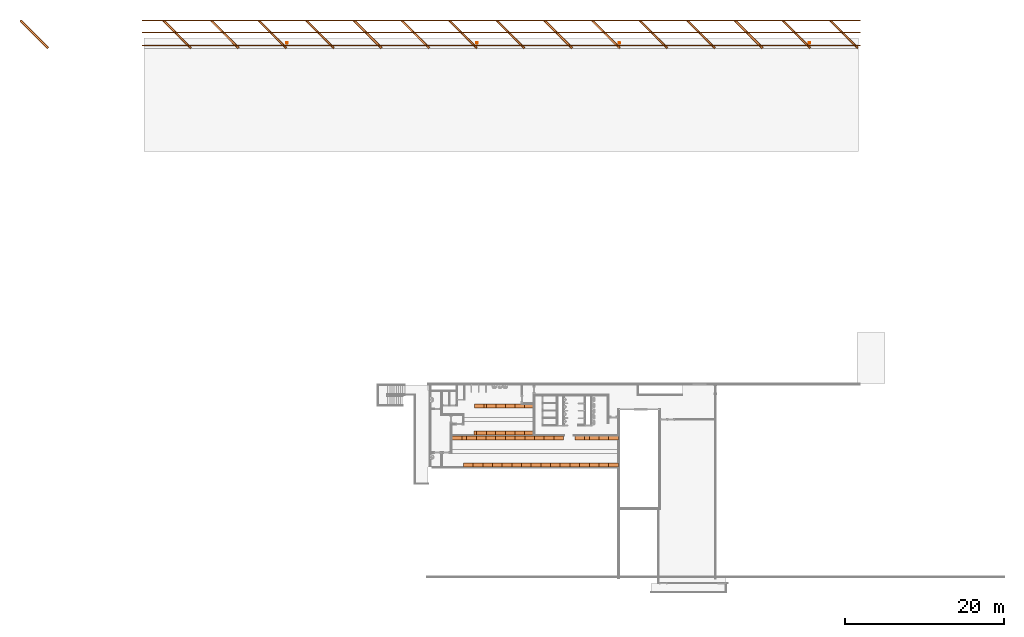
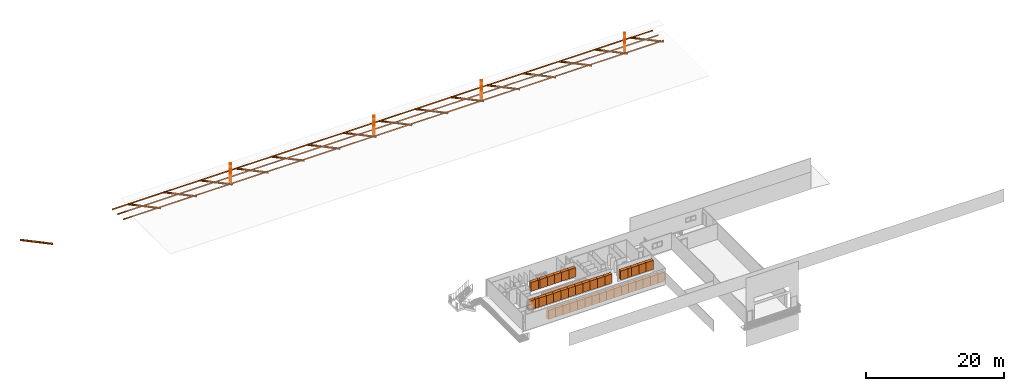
# One storey, part 14 of 14: 52 proxies.
"""IFC2X3 building model written with IfcOpenShell, lengths in millimetres."""

from ifc_helpers import new_model, entity, si_unit, converted_unit, derived_unit, direction, frame, frame_2d, origin, origin_2d_with_axis, place, context, subcontext, project, spatial, polyline, rectangle, circle, outline, extrude, source, transform, mapped, material, type_object, type_shapes, element, save


model = new_model("IFC2X3")

# Units and contexts
model_context = context("Model", 3, precision=0.01, world=origin(), true_north=direction((4.05803320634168e-15, -1.0)))
body_context = subcontext(model_context, "Body", "Model", "MODEL_VIEW")
ifc_project = project(units=[si_unit("LENGTHUNIT", "METRE", prefix="MILLI"), si_unit("AREAUNIT", "SQUARE_METRE"), si_unit("VOLUMEUNIT", "CUBIC_METRE"), converted_unit("PLANEANGLEUNIT", "DEGREE", entity("IfcRatioMeasure", 0.0174532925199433), si_unit("PLANEANGLEUNIT", "RADIAN"), dimensions=[0, 0, 0, 0, 0, 0, 0]), si_unit("MASSUNIT", "GRAM", prefix="KILO"), derived_unit("MASSDENSITYUNIT", [(si_unit("MASSUNIT", "GRAM", prefix="KILO"), 1), (si_unit("LENGTHUNIT", "METRE"), -3)]), si_unit("TIMEUNIT", "SECOND"), si_unit("FREQUENCYUNIT", "HERTZ"), si_unit("THERMODYNAMICTEMPERATUREUNIT", "DEGREE_CELSIUS"), derived_unit("THERMALTRANSMITTANCEUNIT", [(si_unit("MASSUNIT", "GRAM", prefix="KILO"), 1), (si_unit("THERMODYNAMICTEMPERATUREUNIT", "KELVIN"), -1), (si_unit("TIMEUNIT", "SECOND"), -3)]), derived_unit("VOLUMETRICFLOWRATEUNIT", [(si_unit("LENGTHUNIT", "METRE"), 3), (si_unit("TIMEUNIT", "SECOND"), -1)]), si_unit("ELECTRICCURRENTUNIT", "AMPERE"), si_unit("ELECTRICVOLTAGEUNIT", "VOLT"), si_unit("POWERUNIT", "WATT"), si_unit("FORCEUNIT", "NEWTON", prefix="KILO"), si_unit("ILLUMINANCEUNIT", "LUX"), si_unit("LUMINOUSFLUXUNIT", "LUMEN"), si_unit("LUMINOUSINTENSITYUNIT", "CANDELA"), derived_unit("USERDEFINED", [(si_unit("MASSUNIT", "GRAM", prefix="KILO"), -1), (si_unit("LENGTHUNIT", "METRE"), -2), (si_unit("TIMEUNIT", "SECOND"), 3), (si_unit("LUMINOUSFLUXUNIT", "LUMEN"), 1)]), derived_unit("LINEARVELOCITYUNIT", [(si_unit("LENGTHUNIT", "METRE"), 1), (si_unit("TIMEUNIT", "SECOND"), -1)]), si_unit("PRESSUREUNIT", "PASCAL"), derived_unit("USERDEFINED", [(si_unit("LENGTHUNIT", "METRE"), -2), (si_unit("MASSUNIT", "GRAM", prefix="KILO"), 1), (si_unit("TIMEUNIT", "SECOND"), -2)])], contexts=[model_context])

# Site, building, storey
site_placement = place(None, frame((927466.849349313, 583801.882853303, 0.0), z_axis=(0.0, 0.0, 1.0), x_axis=(-1.0, 0.0, 0.0)))
site = spatial("IfcSite", under=ifc_project, at=site_placement, Name="Surface", CompositionType="ELEMENT")
building_placement = place(site_placement, origin())
building = spatial("IfcBuilding", under=site, at=building_placement, CompositionType="ELEMENT")
storey_placement = place(building_placement, frame((0.0, 0.0, 48170.0)))
storey = spatial("IfcBuildingStorey", under=building, at=storey_placement, Name="First floor", CompositionType="ELEMENT", Elevation=48170.0)

# Proxies
ifc_material_1 = material(Name="Column")
building_element_proxy_type_1 = type_object("IfcBuildingElementProxyType", Name="Generic Models 5", PredefinedType="NOTDEFINED", material=ifc_material_1)
shared_shape_1 = source(origin(), body_context, "Body", "SweptSolid", [
    extrude(outline(polyline([(55.5329504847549, -29.8131194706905), (110.045374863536, -29.8131194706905), (110.045374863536, 54.0655973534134), (-109.954625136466, 54.0655973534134), (-109.954625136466, -29.8131194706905), (-60.207900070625, -29.8131194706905), (-60.207900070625, -19.8131194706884), (-95.2079000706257, -19.8131194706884), (-95.2079000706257, 45.1868805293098), (99.7920999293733, 45.1868805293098), (99.7920999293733, -19.8131194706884), (55.5329504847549, -19.8131194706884), (55.5329504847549, -29.8131194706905)])), frame((-135300.59177989, -33869.5833859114, 48190.3969244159), z_axis=(1.0, 0.0, 0.0), x_axis=(0.0, 0.0, -1.0)), (0.0, 0.0, 1.0), 90401.5494500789),
])
type_shapes(building_element_proxy_type_1, [shared_shape_1])
proxy_1_placement = place(storey_placement, frame((0.0, 0.0, -48170.0)))
element("IfcBuildingElementProxy", 1, at=proxy_1_placement, inside=storey, type_object=building_element_proxy_type_1, material=ifc_material_1, Name="Generic Models 22:Generic Models 5", ObjectType="Generic Models 5", context=body_context, shape_type="MappedRepresentation", body=[
    mapped(shared_shape_1, transform((0.0, 0.0, 0.0), scale=1.0)),
])
building_element_proxy_type_2 = type_object("IfcBuildingElementProxyType", Name="Generic Models 16", PredefinedType="NOTDEFINED", material=ifc_material_1)
shared_shape_2 = source(origin(), body_context, "Body", "SweptSolid", [
    extrude(outline(polyline([(-10.2748974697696, -2443.6681157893), (189.860076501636, -2443.6681157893), (10.2748974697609, 2443.6681157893), (-189.860076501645, 2443.6681157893), (-10.2748974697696, -2443.6681157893)])), frame((-103356.417542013, -32183.3207568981, 48280.4649009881), z_axis=(0.707106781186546, 0.707106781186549, 0.0), x_axis=(0.0, 0.0, -1.0)), (0.0, 0.0, 1.0), 200.000000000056),
    extrude(outline(polyline([(-10.2748974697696, -2443.6681157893), (189.860076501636, -2443.6681157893), (10.2748974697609, 2443.66811578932), (-189.860076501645, 2443.66811578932), (-10.2748974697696, -2443.6681157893)])), frame((-109358.213789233, -32183.320756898, 48280.4649009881), z_axis=(0.707106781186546, 0.707106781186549, 0.0), x_axis=(0.0, 0.0, -1.0)), (0.0, 0.0, 1.0), 200.000000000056),
    extrude(outline(polyline([(-10.2748974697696, -2443.6681157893), (189.860076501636, -2443.6681157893), (10.2748974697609, 2443.6681157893), (-189.860076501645, 2443.6681157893), (-10.2748974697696, -2443.6681157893)])), frame((-115360.115321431, -32183.320756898, 48280.4649009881), z_axis=(0.707106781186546, 0.707106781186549, 0.0), x_axis=(0.0, 0.0, -1.0)), (0.0, 0.0, 1.0), 200.000000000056),
    extrude(outline(polyline([(-10.2748974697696, -2443.6681157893), (189.860076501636, -2443.6681157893), (10.2748974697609, 2443.66811578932), (-189.860076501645, 2443.66811578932), (-10.2748974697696, -2443.6681157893)])), frame((-121358.319074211, -32183.320756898, 48280.4649009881), z_axis=(0.707106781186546, 0.707106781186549, 0.0), x_axis=(0.0, 0.0, -1.0)), (0.0, 0.0, 1.0), 200.000000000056),
    extrude(outline(polyline([(-10.2748974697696, -2443.66811578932), (189.860076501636, -2443.66811578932), (10.2748974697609, 2443.6681157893), (-189.860076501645, 2443.6681157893), (-10.2748974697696, -2443.66811578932)])), frame((-127360.115321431, -32183.320756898, 48280.4649009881), z_axis=(0.707106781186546, 0.707106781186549, 0.0), x_axis=(0.0, 0.0, -1.0)), (0.0, 0.0, 1.0), 200.000000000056),
    extrude(outline(polyline([(-10.2748974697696, -2443.6681157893), (189.860076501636, -2443.6681157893), (10.2748974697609, 2443.66811578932), (-189.860076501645, 2443.66811578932), (-10.2748974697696, -2443.6681157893)])), frame((-133362.016853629, -32183.320756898, 48280.4649009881), z_axis=(0.707106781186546, 0.707106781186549, 0.0), x_axis=(0.0, 0.0, -1.0)), (0.0, 0.0, 1.0), 200.000000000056),
    extrude(outline(polyline([(-10.2748974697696, -2443.66811578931), (189.860076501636, -2443.66811578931), (10.2748974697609, 2443.66811578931), (-189.860076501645, 2443.66811578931), (-10.2748974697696, -2443.66811578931)])), frame((-31354.5160098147, -32183.3207568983, 48280.4649009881), z_axis=(0.707106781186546, 0.707106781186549, 0.0), x_axis=(0.0, 0.0, -1.0)), (0.0, 0.0, 1.0), 200.000000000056),
    extrude(outline(polyline([(-10.274897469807, -2443.66811578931), (189.860076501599, -2443.66811578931), (10.2748974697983, 2443.66811578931), (-189.860076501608, 2443.66811578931), (-10.274897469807, -2443.66811578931)])), frame((-49356.4175420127, -32183.3207568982, 48280.4649009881), z_axis=(0.707106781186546, 0.707106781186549, 0.0), x_axis=(0.0, 0.0, -1.0)), (0.0, 0.0, 1.0), 200.000000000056),
    extrude(outline(polyline([(-10.274897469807, -2443.66811578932), (189.860076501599, -2443.66811578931), (10.2748974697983, 2443.66811578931), (-189.860076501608, 2443.66811578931), (-10.274897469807, -2443.66811578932)])), frame((-55358.2137892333, -32183.3207568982, 48280.4649009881), z_axis=(0.707106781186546, 0.707106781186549, 0.0), x_axis=(0.0, 0.0, -1.0)), (0.0, 0.0, 1.0), 200.000000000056),
    extrude(outline(polyline([(-10.274897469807, -2443.66811578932), (189.860076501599, -2443.66811578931), (10.2748974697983, 2443.66811578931), (-189.860076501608, 2443.66811578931), (-10.274897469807, -2443.66811578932)])), frame((-61360.1153214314, -32183.3207568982, 48280.4649009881), z_axis=(0.707106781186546, 0.707106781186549, 0.0), x_axis=(0.0, 0.0, -1.0)), (0.0, 0.0, 1.0), 200.000000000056),
    extrude(outline(polyline([(-10.274897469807, -2443.66811578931), (189.860076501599, -2443.66811578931), (10.2748974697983, 2443.66811578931), (-189.860076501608, 2443.66811578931), (-10.274897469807, -2443.66811578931)])), frame((-67356.4175420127, -32183.3207568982, 48280.4649009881), z_axis=(0.707106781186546, 0.707106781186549, 0.0), x_axis=(0.0, 0.0, -1.0)), (0.0, 0.0, 1.0), 200.000000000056),
    extrude(outline(polyline([(-10.274897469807, -2443.66811578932), (189.860076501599, -2443.66811578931), (10.2748974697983, 2443.66811578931), (-189.860076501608, 2443.66811578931), (-10.274897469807, -2443.66811578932)])), frame((-73358.2137892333, -32183.3207568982, 48280.4649009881), z_axis=(0.707106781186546, 0.707106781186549, 0.0), x_axis=(0.0, 0.0, -1.0)), (0.0, 0.0, 1.0), 200.000000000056),
    extrude(outline(polyline([(-10.2748974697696, -2443.66811578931), (189.860076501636, -2443.66811578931), (10.2748974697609, 2443.6681157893), (-189.860076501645, 2443.6681157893), (-10.2748974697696, -2443.66811578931)])), frame((-79360.1153214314, -32183.3207568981, 48280.4649009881), z_axis=(0.707106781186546, 0.707106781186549, 0.0), x_axis=(0.0, 0.0, -1.0)), (0.0, 0.0, 1.0), 200.000000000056),
    extrude(outline(polyline([(-10.2748974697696, -2443.66811578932), (189.860076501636, -2443.66811578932), (10.2748974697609, 2443.6681157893), (-189.860076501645, 2443.6681157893), (-10.2748974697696, -2443.66811578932)])), frame((-85358.3190742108, -32183.3207568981, 48280.4649009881), z_axis=(0.707106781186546, 0.707106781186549, 0.0), x_axis=(0.0, 0.0, -1.0)), (0.0, 0.0, 1.0), 200.000000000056),
    extrude(outline(polyline([(-10.2748974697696, -2443.6681157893), (189.860076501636, -2443.6681157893), (10.2748974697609, 2443.66811578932), (-189.860076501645, 2443.66811578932), (-10.2748974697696, -2443.6681157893)])), frame((-91360.1153214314, -32183.3207568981, 48280.4649009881), z_axis=(0.707106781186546, 0.707106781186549, 0.0), x_axis=(0.0, 0.0, -1.0)), (0.0, 0.0, 1.0), 200.000000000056),
    extrude(outline(polyline([(-10.2748974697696, -2443.6681157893), (189.860076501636, -2443.6681157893), (10.2748974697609, 2443.66811578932), (-189.860076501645, 2443.66811578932), (-10.2748974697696, -2443.6681157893)])), frame((-97362.0168536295, -32183.3207568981, 48280.4649009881), z_axis=(0.707106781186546, 0.707106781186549, 0.0), x_axis=(0.0, 0.0, -1.0)), (0.0, 0.0, 1.0), 200.000000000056),
])
type_shapes(building_element_proxy_type_2, [shared_shape_2])
proxy_2_placement = place(storey_placement, frame((0.0, 0.0, -48170.0)))
element("IfcBuildingElementProxy", 2, at=proxy_2_placement, inside=storey, type_object=building_element_proxy_type_2, material=ifc_material_1, Name="Generic Models 16:Generic Models 16", ObjectType="Generic Models 16", context=body_context, shape_type="MappedRepresentation", body=[
    mapped(shared_shape_2, transform((0.0, 0.0, 0.0), scale=1.0)),
])
building_element_proxy_type_3 = type_object("IfcBuildingElementProxyType", Name="Generic Models 24", PredefinedType="NOTDEFINED")
shared_shape_3 = source(origin(), body_context, "Body", "SweptSolid", [
    extrude(circle(Radius=100.0, at=origin_2d_with_axis()), frame((-128939.433364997, -30844.6568293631, 48300.3515495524), z_axis=(0.0, 0.0, 1.0), x_axis=(0.883742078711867, -0.467974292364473, 0.0)), (0.0, 0.0, 1.0), 3371.58014721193),
    extrude(circle(Radius=100.0, at=frame_2d((2.02701591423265e-12, -3.82790099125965e-12), x_axis=(1.0, 0.0))), frame((-63104.5860752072, -30851.7574955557, 48300.3515495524), z_axis=(0.0, 0.0, 1.0), x_axis=(0.883742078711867, -0.467974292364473, 0.0)), (0.0, 0.0, 1.0), 3371.58014721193),
    extrude(circle(Radius=100.0, at=origin_2d_with_axis()), frame((-104987.940670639, -30841.136482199, 48300.3515495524), z_axis=(0.0, 0.0, 1.0), x_axis=(0.883742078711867, -0.467974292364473, 0.0)), (0.0, 0.0, 1.0), 3371.58014721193),
    extrude(circle(Radius=100.0, at=origin_2d_with_axis()), frame((-87047.9406706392, -30841.1364821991, 48300.3515495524), z_axis=(0.0, 0.0, 1.0), x_axis=(0.883742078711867, -0.467974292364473, 0.0)), (0.0, 0.0, 1.0), 3371.58014721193),
])
type_shapes(building_element_proxy_type_3, [shared_shape_3])
proxy_3_placement = place(storey_placement, frame((0.0, -187.822733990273, -48170.0)))
element("IfcBuildingElementProxy", 3, at=proxy_3_placement, inside=storey, type_object=building_element_proxy_type_3, Name="Generic Models 24:Generic Models 24", ObjectType="Generic Models 24", context=body_context, shape_type="MappedRepresentation", body=[
    mapped(shared_shape_3, transform((0.0, 0.0, 0.0), scale=1.0)),
])
building_element_proxy_type_4 = type_object("IfcBuildingElementProxyType", Name="Generic Models 5", PredefinedType="NOTDEFINED", material=ifc_material_1)
shared_shape_4 = source(origin(), body_context, "Body", "SweptSolid", [
    extrude(outline(polyline([(55.5329504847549, -29.8131194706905), (110.045374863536, -29.8131194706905), (110.045374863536, 54.0655973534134), (-109.954625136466, 54.0655973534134), (-109.954625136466, -29.8131194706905), (-60.207900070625, -29.8131194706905), (-60.207900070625, -19.8131194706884), (-95.2079000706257, -19.8131194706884), (-95.2079000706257, 45.1868805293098), (99.7920999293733, 45.1868805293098), (99.7920999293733, -19.8131194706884), (55.5329504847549, -19.8131194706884), (55.5329504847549, -29.8131194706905)])), frame((-135300.59177989, -33869.5833859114, 48190.3969244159), z_axis=(1.0, 0.0, 0.0), x_axis=(0.0, 0.0, -1.0)), (0.0, 0.0, 1.0), 90401.5494500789),
])
type_shapes(building_element_proxy_type_4, [shared_shape_4])
proxy_4_placement = place(storey_placement, frame((0.0, 3175.71505569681, -48004.9730778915)))
element("IfcBuildingElementProxy", 4, at=proxy_4_placement, inside=storey, type_object=building_element_proxy_type_4, material=ifc_material_1, Name="Generic Models 9:Generic Models 5", ObjectType="Generic Models 5", context=body_context, shape_type="MappedRepresentation", body=[
    mapped(shared_shape_4, transform((0.0, 0.0, 0.0), scale=1.0)),
])
building_element_proxy_type_5 = type_object("IfcBuildingElementProxyType", Name="Generic Models 5", PredefinedType="NOTDEFINED", material=ifc_material_1)
shared_shape_5 = source(origin(), body_context, "Body", "SweptSolid", [
    extrude(outline(polyline([(55.5329504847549, -29.8131194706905), (110.045374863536, -29.8131194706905), (110.045374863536, 54.0655973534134), (-109.954625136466, 54.0655973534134), (-109.954625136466, -29.8131194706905), (-60.207900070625, -29.8131194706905), (-60.207900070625, -19.8131194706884), (-95.2079000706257, -19.8131194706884), (-95.2079000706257, 45.1868805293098), (99.7920999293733, 45.1868805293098), (99.7920999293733, -19.8131194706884), (55.5329504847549, -19.8131194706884), (55.5329504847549, -29.8131194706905)])), frame((-135300.59177989, -33869.5833859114, 48190.3969244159), z_axis=(1.0, 0.0, 0.0), x_axis=(0.0, 0.0, -1.0)), (0.0, 0.0, 1.0), 90401.5494500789),
])
type_shapes(building_element_proxy_type_5, [shared_shape_5])
proxy_5_placement = place(storey_placement, frame((0.0, 1537.92490118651, -48090.081301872)))
element("IfcBuildingElementProxy", 5, at=proxy_5_placement, inside=storey, type_object=building_element_proxy_type_5, material=ifc_material_1, Name="Generic Models 29:Generic Models 5", ObjectType="Generic Models 5", context=body_context, shape_type="MappedRepresentation", body=[
    mapped(shared_shape_5, transform((0.0, 0.0, 0.0), scale=1.0)),
])
ifc_material_2 = material(Name="Laminate, Ivory, Matte")
building_element_proxy_type_6 = type_object("IfcBuildingElementProxyType", Name="lockers 2", PredefinedType="NOTDEFINED", material=ifc_material_2)
shared_shape_6 = source(origin(), body_context, "Body", "SweptSolid", [
    extrude(rectangle(XDim=305.0, YDim=500.000000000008, at=origin_2d_with_axis()), frame((457.5, 550.0, 500.0), z_axis=(0.0, 0.0, 1.0), x_axis=(-1.0, 0.0, 0.0)), (0.0, 0.0, 1.0), 1600.0),
    extrude(rectangle(XDim=305.0, YDim=500.000000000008, at=origin_2d_with_axis()), frame((152.5, 550.0, 500.0), z_axis=(0.0, 0.0, 1.0), x_axis=(-1.0, 0.0, 0.0)), (0.0, 0.0, 1.0), 1600.0),
    extrude(rectangle(XDim=305.0, YDim=500.000000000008, at=origin_2d_with_axis()), frame((-152.5, 550.0, 500.0), z_axis=(0.0, 0.0, 1.0), x_axis=(-1.0, 0.0, 0.0)), (0.0, 0.0, 1.0), 1600.0),
    extrude(rectangle(XDim=305.0, YDim=500.000000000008, at=frame_2d((-4.2632564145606e-14, 0.0), x_axis=(1.0, 0.0))), frame((-457.5, 550.0, 500.0), z_axis=(0.0, 0.0, 1.0), x_axis=(-1.0, 0.0, 0.0)), (0.0, 0.0, 1.0), 1600.0),
])
type_shapes(building_element_proxy_type_6, [shared_shape_6])
for number, where, name in (
    (6, (-104247.796161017, 21569.2777512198, 0.0), "lockers 2:lockers 2"),
    (7, (-103027.796161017, 21569.2777512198, 0.0), "lockers 2:lockers 2"),
    (8, (-101807.796161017, 21569.2777512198, 0.0), "lockers 2:lockers 2"),
    (9, (-100587.796161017, 21569.2777512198, 0.0), "lockers 2:lockers 2"),
    (10, (-99367.7961610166, 21569.2777512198, 0.0), "lockers 2:lockers 2"),
    (11, (-98147.7961610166, 21569.2777512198, 0.0), "lockers 2:lockers 2"),
    (12, (-96927.7961610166, 21569.2777512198, 0.0), "lockers 2:lockers 2"),
    (13, (-95707.7961610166, 21569.2777512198, 0.0), "lockers 2:lockers 2"),
    (14, (-94487.7961610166, 21569.2777512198, 0.0), "lockers 2:lockers 2"),
    (15, (-93267.7961610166, 21569.2777512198, 0.0), "lockers 2:lockers 2"),
    (16, (-92047.7961610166, 21569.2777512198, 0.0), "lockers 2:lockers 2"),
    (17, (-90827.7961610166, 21569.2777512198, 0.0), "lockers 2:lockers 2"),
    (18, (-89607.7961610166, 21569.2777512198, 0.0), "lockers 2:lockers 2"),
    (19, (-88387.7961610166, 21569.2777512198, 0.0), "lockers 2:lockers 2"),
    (20, (-87167.7961610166, 21569.2777512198, 0.0), "lockers 2:lockers 2"),
    (21, (-85947.7961610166, 21569.2777512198, 0.0), "lockers 2:lockers 2"),
    (22, (-104247.796161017, 18169.2777512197, 0.0), "lockers 2:lockers 2"),
    (23, (-103037.655045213, 18169.2777512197, 0.0), "lockers 2:lockers 2"),
    (24, (-101827.513929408, 18169.2777512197, 0.0), "lockers 2:lockers 2"),
    (25, (-100617.372813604, 18169.2777512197, 0.0), "lockers 2:lockers 2"),
    (26, (-97343.0605674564, 18169.2777512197, 0.0), "lockers 2:lockers 2"),
    (27, (-96123.0605674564, 18169.2777512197, 0.0), "lockers 2:lockers 2"),
    (28, (-94903.0605674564, 18169.2777512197, 0.0), "lockers 2:lockers 2"),
    (29, (-93683.0605674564, 18169.2777512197, 0.0), "lockers 2:lockers 2"),
    (30, (-92463.0605674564, 18169.2777512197, 0.0), "lockers 2:lockers 2"),
    (31, (-91243.0605674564, 18169.2777512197, 0.0), "lockers 2:lockers 2"),
    (32, (-90023.0605674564, 18169.2777512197, 0.0), "lockers 2:lockers 2"),
    (33, (-88803.0605674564, 18169.2777512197, 0.0), "lockers 2:lockers 2"),
    (34, (-87583.0605674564, 18169.2777512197, 0.0), "lockers 2:lockers 2"),
    (35, (-86363.0605674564, 18169.2777512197, 0.0), "lockers 2:lockers 2"),
    (36, (-85143.0605674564, 18169.2777512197, 0.0), "lockers 2:lockers 2"),
    (37, (-100007.372813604, 18169.2777512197, 0.0), "lockers 2:lockers 2"),
    (38, (-84533.0605674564, 18169.2777512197, 0.0), "lockers 2:lockers 2"),
    (39, (-93624.6956533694, 17569.2777512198, 0.0), "lockers 2:lockers 2"),
    (40, (-92424.6956533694, 17569.2777512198, 0.0), "lockers 2:lockers 2"),
    (41, (-91224.6956533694, 17569.2777512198, 0.0), "lockers 2:lockers 2"),
    (42, (-90024.6956533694, 17569.2777512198, 0.0), "lockers 2:lockers 2"),
    (43, (-88824.6956533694, 17569.2777512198, 0.0), "lockers 2:lockers 2"),
    (44, (-87624.6956533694, 17569.2777512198, 0.0), "lockers 2:lockers 2"),
    (45, (-87304.6956533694, 17569.2777512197, 0.0), "lockers 2:lockers 2"),
    (46, (-93644.6956722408, 14169.2762492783, 0.0), "lockers 2:lockers 2"),
    (47, (-92444.6956722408, 14169.2762492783, 0.0), "lockers 2:lockers 2"),
    (48, (-91244.6956722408, 14169.2762492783, 0.0), "lockers 2:lockers 2"),
    (49, (-90044.6956722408, 14169.2762492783, 0.0), "lockers 2:lockers 2"),
    (50, (-88844.6956722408, 14169.2762492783, 0.0), "lockers 2:lockers 2"),
    (51, (-87644.6956722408, 14169.2762492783, 0.0), "lockers 2:lockers 2"),
    (52, (-87324.6956722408, 14169.2762492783, 0.0), "lockers 2:lockers 2"),
):
    element("IfcBuildingElementProxy", number, at=place(storey_placement, frame(where)), inside=storey, type_object=building_element_proxy_type_6, material=ifc_material_2, Name=name, ObjectType="lockers 2", context=body_context, shape_type="MappedRepresentation", body=[
        mapped(shared_shape_6, transform((0.0, 0.0, 0.0), scale=1.0)),
    ])

save(model, "model.ifc")
